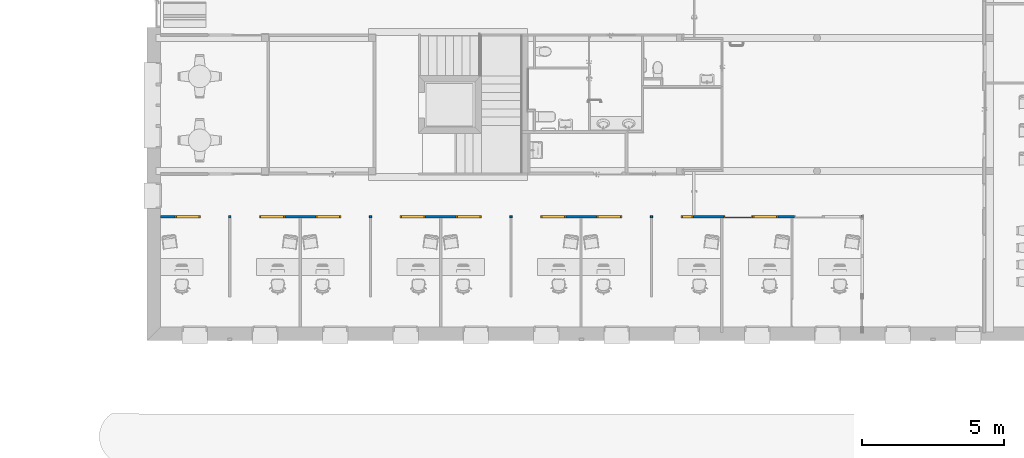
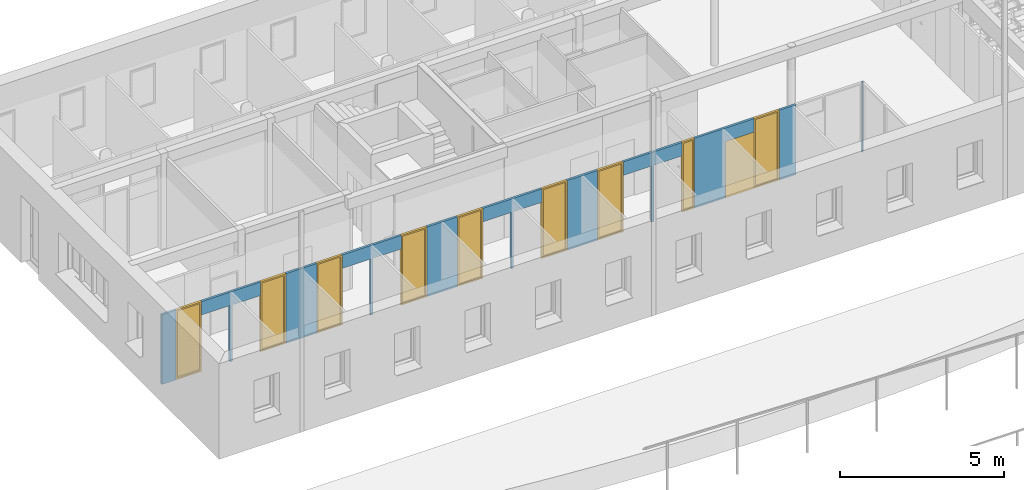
# One storey, part 15 of 91: 9 windows, 1 door, 1 wall, 20 openings.
"""IFC2X3 building model written with IfcOpenShell, lengths in metres."""

import ifcopenshell
import ifcopenshell.guid

model = None  # the IFC model being written
_history = None  # IfcOwnerHistory: only IFC2X3 demands one
_inside = {}  # id of a spatial element -> (the spatial element, [elements in it])
_under = {}  # id of a project, library or spatial element -> (it, [spatial elements below it])
_declared = {}  # id of a project -> (the project, [libraries it declares])
_typed = {}  # id of a type object -> (the type object, [elements of that type])
_made_of = {}  # id of a material, layer set ... -> (it, [elements and type objects made of it])


def new_model(schema):
    """Start an empty IFC model of exactly this schema.

    Asked for "IFC4X3", IfcOpenShell would pick the latest addendum, in which some entities
    have other attributes; the version numbers below select the first issue.
    IFC2X3 requires an IfcOwnerHistory on every rooted entity: one is made here for all.
    """
    global model, _history
    if schema == "IFC4X3":
        model = ifcopenshell.file(schema_version=(4, 3, 0, 0))
    else:
        model = ifcopenshell.file(schema=schema)
    _inside.clear()
    _under.clear()
    _declared.clear()
    _typed.clear()
    _made_of.clear()
    _history = None
    if model.schema == "IFC2X3":
        org = make("IfcOrganization", Name="unknown")
        user = make(
            "IfcPersonAndOrganization",
            ThePerson=make("IfcPerson", FamilyName="unknown"),
            TheOrganization=org,
        )
        app = make(
            "IfcApplication",
            ApplicationDeveloper=org,
            Version="unknown",
            ApplicationFullName="unknown",
            ApplicationIdentifier="unknown",
        )
        _history = make(
            "IfcOwnerHistory",
            OwningUser=user,
            OwningApplication=app,
            ChangeAction="ADDED",
            CreationDate=0,
        )
    return model


def make(cls, **values):
    """One entity of the class cls with the attributes given. An attribute that is None is left unset."""
    return model.create_entity(
        cls, **{name: value for name, value in values.items() if value is not None}
    )


def entity(cls, *values):
    """Any entity or typed value of the class cls, its attributes in the order of the schema. None: left unset."""
    e = model.create_entity(cls)
    for i, value in enumerate(values):
        if value is not None:
            e[i] = value
    return e


def rooted(cls, **values):
    """An entity with a GlobalId (a new one), such as an element, a storey or a relation."""
    return make(cls, GlobalId=ifcopenshell.guid.new(), OwnerHistory=_history, **values)


def si_unit(unit_type, name, prefix=None):
    """IfcSIUnit, for example si_unit("LENGTHUNIT", "METRE", prefix="MILLI")."""
    return make("IfcSIUnit", UnitType=unit_type, Prefix=prefix, Name=name)


def converted_unit(unit_type, name, factor, base, dimensions=None, offset=None):
    """IfcConversionBasedUnit, such as the inch: factor (a typed value) times the base unit."""
    return make(
        "IfcConversionBasedUnit"
        if offset is None
        else "IfcConversionBasedUnitWithOffset",
        ConversionOffset=offset,
        Dimensions=None
        if dimensions is None
        else entity("IfcDimensionalExponents", *dimensions),
        UnitType=unit_type,
        Name=name,
        ConversionFactor=make(
            "IfcMeasureWithUnit", ValueComponent=factor, UnitComponent=base
        ),
    )


def derived_unit(unit_type, elements):
    """IfcDerivedUnit: a product of units, each with its exponent."""
    return make(
        "IfcDerivedUnit",
        Elements=[
            make("IfcDerivedUnitElement", Unit=unit, Exponent=power)
            for unit, power in elements
        ],
        UnitType=unit_type,
    )


def money_unit(currency):
    """IfcMonetaryUnit."""
    return make("IfcMonetaryUnit", Currency=currency)


def assignment(units):
    """IfcUnitAssignment: the units of a project."""
    return None if units is None else make("IfcUnitAssignment", Units=units)


def point(xyz):
    """IfcCartesianPoint."""
    return None if xyz is None else make("IfcCartesianPoint", Coordinates=xyz)


def direction(xyz):
    """IfcDirection."""
    return None if xyz is None else make("IfcDirection", DirectionRatios=xyz)


def frame(location, z_axis=None, x_axis=None):
    """IfcAxis2Placement3D, a coordinate frame: its origin and axes. An axis left out is left unset."""
    return make(
        "IfcAxis2Placement3D",
        Location=point(location),
        Axis=direction(z_axis),
        RefDirection=direction(x_axis),
    )


def frame_2d(location, x_axis=None):
    """IfcAxis2Placement2D, a coordinate frame in the plane: its origin and x axis."""
    return make(
        "IfcAxis2Placement2D", Location=point(location), RefDirection=direction(x_axis)
    )


def origin_with_axes():
    """The frame at (0, 0, 0) with the z axis (0, 0, 1) and the x axis (1, 0, 0) written out."""
    return frame((0.0, 0.0, 0.0), z_axis=(0.0, 0.0, 1.0), x_axis=(1.0, 0.0, 0.0))


def origin_2d_with_axis():
    """The frame at (0, 0) in the plane with the x axis (1, 0) written out."""
    return frame_2d((0.0, 0.0), x_axis=(1.0, 0.0))


def place(relative_to, where):
    """IfcLocalPlacement: puts the frame where relative to a parent placement (None: the world)."""
    return make(
        "IfcLocalPlacement", PlacementRelTo=relative_to, RelativePlacement=where
    )


def context(
    kind, dimensions, precision=None, world=None, true_north=None, identifier=None
):
    """IfcGeometricRepresentationContext, for example the 3D "Model" context."""
    return make(
        "IfcGeometricRepresentationContext",
        ContextIdentifier=identifier,
        ContextType=kind,
        CoordinateSpaceDimension=dimensions,
        Precision=precision,
        WorldCoordinateSystem=world,
        TrueNorth=true_north,
    )


def subcontext(parent, identifier, kind, view, scale=None):
    """IfcGeometricRepresentationSubContext, for example "Body" below "Model"."""
    return make(
        "IfcGeometricRepresentationSubContext",
        ContextIdentifier=identifier,
        ContextType=kind,
        ParentContext=parent,
        TargetScale=scale,
        TargetView=view,
    )


def project(units=None, contexts=None):
    """IfcProject with its units and contexts."""
    return rooted(
        "IfcProject",
        Name="project",
        RepresentationContexts=contexts,
        UnitsInContext=assignment(units),
    )


def spatial(cls, under=None, at=None, **own):
    """A site, building, storey or space (cls), placed at a placement, below another one or the project."""
    s = rooted(cls, ObjectPlacement=at, **own)
    if under is not None:
        _under.setdefault(under.id(), (under, []))[1].append(s)
    return s


def polyline(points):
    """IfcPolyline through the points."""
    return make("IfcPolyline", Points=[point(p) for p in points])


def profile(cls, at=None, kind="AREA", **sizes):
    """A parametric profile (cls). Its sizes go by their IFC names, for example OverallWidth=200.0."""
    return make(cls, ProfileType=kind, Position=at, **sizes)


def rectangle(**sizes):
    """IfcRectangleProfileDef."""
    return profile("IfcRectangleProfileDef", **sizes)


def outline(outer, holes=None, kind="AREA"):
    """IfcArbitraryClosedProfileDef: a profile drawn as a closed curve; with holes, ...WithVoids."""
    if holes is None:
        return make("IfcArbitraryClosedProfileDef", ProfileType=kind, OuterCurve=outer)
    return make(
        "IfcArbitraryProfileDefWithVoids",
        ProfileType=kind,
        OuterCurve=outer,
        InnerCurves=holes,
    )


def extrude(swept, where, along, depth):
    """IfcExtrudedAreaSolid: the profile swept, set in the frame where, extruded along a direction by depth."""
    return make(
        "IfcExtrudedAreaSolid",
        SweptArea=swept,
        Position=where,
        ExtrudedDirection=direction(along),
        Depth=depth,
    )


def faces_of(points, faces, orient=None, outer=None):
    """IfcFace entities. A face is a list of loops; a loop is a list of indices into points, from 0.

    orient and outer hold one flag for each loop. By default every Orientation is true, the
    first loop of a face is its IfcFaceOuterBound and the others are IfcFaceBound.
    """
    made = []
    for i, loops in enumerate(faces):
        bounds = []
        for j, loop in enumerate(loops):
            is_outer = j == 0 if outer is None else outer[i][j]
            bounds.append(
                make(
                    "IfcFaceOuterBound" if is_outer else "IfcFaceBound",
                    Bound=make("IfcPolyLoop", Polygon=[points[k] for k in loop]),
                    Orientation=True if orient is None else orient[i][j],
                )
            )
        made.append(make("IfcFace", Bounds=bounds))
    return made


def open_shell(faces, orient=None, outer=None):
    """The faces of one IfcOpenShell. surface_model builds it on its shared points."""
    return ("IfcOpenShell", faces, orient, outer)


def faceted_brep(points, faces, orient=None, outer=None, voids=None):
    """IfcFacetedBrep: a solid bounded by flat faces; with voids (closed shells), ...WithVoids."""
    shared = [point(p) for p in points]
    hull = make("IfcClosedShell", CfsFaces=faces_of(shared, faces, orient, outer))
    if voids is None:
        return make("IfcFacetedBrep", Outer=hull)
    return make(
        "IfcFacetedBrepWithVoids",
        Outer=hull,
        Voids=[
            make(cls, CfsFaces=faces_of(shared, fs, o, b)) for cls, fs, o, b in voids
        ],
    )


def surface_model(cls, points, shells):
    """IfcFaceBasedSurfaceModel or IfcShellBasedSurfaceModel (cls): surfaces that need not close."""
    shared = [point(p) for p in points]
    made = [make(c, CfsFaces=faces_of(shared, fs, o, b)) for c, fs, o, b in shells]
    if cls == "IfcFaceBasedSurfaceModel":
        return make(cls, FbsmFaces=made)
    return make(cls, SbsmBoundary=made)


def shape(context_of_items, identifier, shape_type, items):
    """IfcShapeRepresentation: the items that make up one representation, for example the "Body"."""
    return make(
        "IfcShapeRepresentation",
        ContextOfItems=context_of_items,
        RepresentationIdentifier=identifier,
        RepresentationType=shape_type,
        Items=items,
    )


def source(mapping_origin, context_of_items, identifier, shape_type, items):
    """IfcRepresentationMap: a shape defined once, which mapped items show again and again."""
    return make(
        "IfcRepresentationMap",
        MappingOrigin=mapping_origin,
        MappedRepresentation=shape(context_of_items, identifier, shape_type, items),
    )


def transform(
    local_origin,
    x_axis=None,
    y_axis=None,
    z_axis=None,
    scale=None,
    scale2=None,
    scale3=None,
    uniform=True,
):
    """IfcCartesianTransformationOperator3D, or its non-uniform kind. x_axis, y_axis, z_axis: its Axis1, 2, 3."""
    if uniform:
        return make(
            "IfcCartesianTransformationOperator3D",
            Axis1=direction(x_axis),
            Axis2=direction(y_axis),
            LocalOrigin=point(local_origin),
            Scale=scale,
            Axis3=direction(z_axis),
        )
    return make(
        "IfcCartesianTransformationOperator3DnonUniform",
        Axis1=direction(x_axis),
        Axis2=direction(y_axis),
        LocalOrigin=point(local_origin),
        Scale=scale,
        Axis3=direction(z_axis),
        Scale2=scale2,
        Scale3=scale3,
    )


def mapped(mapping_source, mapping_target):
    """IfcMappedItem: shows the shape of a source again, moved by a transform."""
    return make(
        "IfcMappedItem", MappingSource=mapping_source, MappingTarget=mapping_target
    )


def material(Name=None, Category=None):
    """IfcMaterial."""
    return make("IfcMaterial", Name=Name, Category=Category)


def layer(
    of_material, thickness, ventilated=None, Name=None, Category=None, Priority=None
):
    """IfcMaterialLayer: one layer of a wall or slab, of a material (None: an air gap)."""
    return make(
        "IfcMaterialLayer",
        Material=of_material,
        LayerThickness=thickness,
        IsVentilated=ventilated,
        Name=Name,
        Category=Category,
        Priority=Priority,
    )


def layer_set(layers, Name=None):
    """IfcMaterialLayerSet."""
    return make("IfcMaterialLayerSet", MaterialLayers=layers, LayerSetName=Name)


def layer_usage(for_layer_set, set_direction, sense, offset, extent=None):
    """IfcMaterialLayerSetUsage: how a layer set lies in its element."""
    return make(
        "IfcMaterialLayerSetUsage",
        ForLayerSet=for_layer_set,
        LayerSetDirection=set_direction,
        DirectionSense=sense,
        OffsetFromReferenceLine=offset,
        ReferenceExtent=extent,
    )


def made_of(thing, what):
    """Note that an element or type object is made of a material, layer set ...; save() writes the relation."""
    if what is not None:
        _made_of.setdefault(what.id(), (what, []))[1].append(thing)
    return thing


def type_object(cls, material=None, **own):
    """A type object (cls), such as IfcWallType, which elements share."""
    return made_of(rooted(cls, **own), material)


def element(
    cls,
    number,
    at=None,
    inside=None,
    cuts=None,
    type_object=None,
    material=None,
    context=None,
    identifier="Body",
    shape_type=None,
    held_by="IfcProductDefinitionShape",
    body=None,
    shapes=None,
    **own,
):
    """One element of the class cls, such as IfcWall. Its Tag is "e" and its number.

    at: its placement. inside: the storey or other place that contains it. cuts: it is an
    opening in that element (IfcRelVoidsElement). A single representation is given by context,
    identifier, shape_type and body (its items); several are given by shapes. held_by: the class
    of the entity that holds the representations. save() writes the other relations.
    """
    e = rooted(cls, Tag="e%d" % number, ObjectPlacement=at, **own)
    if body is not None:
        shapes = [shape(context, identifier, shape_type, body)]
    if shapes is not None:
        e.Representation = make(held_by, Representations=shapes)
    if inside is not None:
        _inside.setdefault(inside.id(), (inside, []))[1].append(e)
    if cuts is not None:
        rooted(
            "IfcRelVoidsElement", RelatingBuildingElement=cuts, RelatedOpeningElement=e
        )
    if type_object is not None:
        _typed.setdefault(type_object.id(), (type_object, []))[1].append(e)
    return made_of(e, material)


def fill(opening, filler):
    """IfcRelFillsElement: the door or window that sits in an opening."""
    return rooted(
        "IfcRelFillsElement",
        RelatingOpeningElement=opening,
        RelatedBuildingElement=filler,
    )


def aggregate(whole, parts):
    """IfcRelAggregates: a whole, such as a stair, and the parts it consists of."""
    return rooted("IfcRelAggregates", RelatingObject=whole, RelatedObjects=parts)


def save(model, path):
    """Write the relations noted so far, then the file.

    IfcRelAggregates (storeys below a building ...), IfcRelContainedInSpatialStructure (elements
    in a storey), IfcRelDefinesByType, IfcRelAssociatesMaterial and IfcRelDeclares: one each for
    every whole, place, type object, material and project.
    """
    for whole, parts in _under.values():
        aggregate(whole, parts)
    for where, things in _inside.values():
        rooted(
            "IfcRelContainedInSpatialStructure",
            RelatedElements=things,
            RelatingStructure=where,
        )
    for kind, things in _typed.values():
        rooted("IfcRelDefinesByType", RelatedObjects=things, RelatingType=kind)
    for what, things in _made_of.values():
        rooted("IfcRelAssociatesMaterial", RelatedObjects=things, RelatingMaterial=what)
    for by, libraries in _declared.values():
        rooted("IfcRelDeclares", RelatingContext=by, RelatedDefinitions=libraries)
    model.write(path)


model = new_model("IFC2X3")

# Units and contexts
model_context = context("Model", 3, precision=1e-05, world=origin_with_axes(), true_north=direction((0.0, 1.0)))
body_context = subcontext(model_context, "Body", "Model", "MODEL_VIEW")
ifc_project = project(units=[si_unit("LENGTHUNIT", "METRE"), si_unit("AREAUNIT", "SQUARE_METRE"), si_unit("VOLUMEUNIT", "CUBIC_METRE"), converted_unit("PLANEANGLEUNIT", "DEGREE", entity("IfcPlaneAngleMeasure", 0.0174532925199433), si_unit("PLANEANGLEUNIT", "RADIAN"), dimensions=[0, 0, 0, 0, 0, 0, 0]), money_unit("EUR"), converted_unit("TIMEUNIT", "Year", entity("IfcTimeMeasure", 31557600.0), si_unit("TIMEUNIT", "SECOND"), dimensions=[0, 0, 1, 0, 0, 0, 0]), si_unit("MASSUNIT", "GRAM", prefix="KILO"), si_unit("THERMODYNAMICTEMPERATUREUNIT", "DEGREE_CELSIUS"), si_unit("LUMINOUSINTENSITYUNIT", "LUMEN"), si_unit("ENERGYUNIT", "JOULE", prefix="MEGA"), derived_unit("THERMALCONDUCTANCEUNIT", [(si_unit("POWERUNIT", "WATT"), 1), (si_unit("LENGTHUNIT", "METRE"), -1), (si_unit("THERMODYNAMICTEMPERATUREUNIT", "KELVIN"), -1)]), derived_unit("SPECIFICHEATCAPACITYUNIT", [(si_unit("ENERGYUNIT", "JOULE"), 1), (si_unit("MASSUNIT", "GRAM", prefix="KILO"), -1), (si_unit("THERMODYNAMICTEMPERATUREUNIT", "KELVIN"), -1)]), derived_unit("MASSDENSITYUNIT", [(si_unit("MASSUNIT", "GRAM", prefix="KILO"), 1), (si_unit("VOLUMEUNIT", "CUBIC_METRE"), -1)])], contexts=[model_context])

# Site, building, storey
site_placement = place(None, origin_with_axes())
site = spatial("IfcSite", under=ifc_project, at=site_placement, Name="Site", CompositionType="ELEMENT")
building_placement = place(site_placement, origin_with_axes())
building = spatial("IfcBuilding", under=site, at=building_placement, Name="Bâtiment", CompositionType="ELEMENT")
storey_placement = place(building_placement, origin_with_axes())
storey = spatial("IfcBuildingStorey", under=building, at=storey_placement, Name="RDC", CompositionType="ELEMENT", Elevation=0.0)

# Wall, openings, windows, door
ifc_material = material(Name="*PLAQUE DE PLATRE - CLOISON")
ifc_layer = layer(ifc_material, 0.08, ventilated="UNKNOWN")
ifc_layer_set = layer_set([ifc_layer], Name="*PLAQUE DE PLATRE - CLOISON 0.08")
ifc_layer_usage = layer_usage(ifc_layer_set, "AXIS2", "NEGATIVE", 0.0)
wall_type = type_object("IfcWallType", Name="*PLAQUE DE PLATRE - CLOISON 80", PredefinedType="NOTDEFINED")
wall_placement = place(storey_placement, frame((49.88999999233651, -23.11056215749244, 0.0), z_axis=(0.0, 0.0, 1.0), x_axis=(-1.0, 0.0, 0.0)))
wall = element("IfcWallStandardCase", 1, at=wall_placement, inside=storey, type_object=wall_type, material=ifc_layer_usage, Name="Cloison modulaire", context=body_context, shape_type="SweptSolid", body=[
    extrude(outline(polyline([(0.0, -0.0799999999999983), (24.78999999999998, -0.0799999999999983), (24.78999999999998, 0.0), (0.0799999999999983, 0.0), (0.0, -0.0799999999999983)])), origin_with_axes(), (0.0, 0.0, 1.0), 2.6),
])
opening_1_placement = place(wall_placement, frame((0.7535000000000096, 0.0, 0.0), z_axis=(0.0, 0.0, 1.0), x_axis=(1.0, 0.0, 0.0)))
element("IfcOpeningElement", 2, at=opening_1_placement, cuts=wall, Name="CH.3+vitrophanie", context=body_context, shape_type="SweptSolid", body=[
    extrude(rectangle(XDim=1.347000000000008, YDim=2.6, at=origin_2d_with_axis()), frame((0.0, 0.08000000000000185, 1.3), z_axis=(0.0, -1.0, 0.0), x_axis=(-1.0, 0.0, 0.0)), (0.0, 0.0, 1.0), 0.24),
])
opening_2_placement = place(wall_placement, frame((3.459999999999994, 0.0, 0.0), z_axis=(0.0, 0.0, 1.0), x_axis=(1.0, 0.0, 0.0)))
opening_2 = element("IfcOpeningElement", 3, at=opening_2_placement, cuts=wall, Name="CH.1+vitrophanie", context=body_context, shape_type="SweptSolid", body=[
    extrude(rectangle(XDim=0.9000000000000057, YDim=2.6, at=origin_2d_with_axis()), frame((0.0, 0.08000000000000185, 1.3), z_axis=(0.0, -1.0, 0.0), x_axis=(-1.0, 0.0, 0.0)), (0.0, 0.0, 1.0), 0.24),
])
opening_3_placement = place(wall_placement, frame((8.966999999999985, 0.0, 0.0), z_axis=(0.0, 0.0, 1.0), x_axis=(1.0, 0.0, 0.0)))
opening_3 = element("IfcOpeningElement", 4, at=opening_3_placement, cuts=wall, Name="CH.1+vitrophanie", context=body_context, shape_type="SweptSolid", body=[
    extrude(rectangle(XDim=0.9000000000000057, YDim=2.6, at=origin_2d_with_axis()), frame((0.0, 0.08000000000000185, 1.3), z_axis=(0.0, -1.0, 0.0), x_axis=(-1.0, 0.0, 0.0)), (0.0, 0.0, 1.0), 0.24),
])
opening_4_placement = place(wall_placement, frame((6.216999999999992, 0.0, 0.0), z_axis=(0.0, 0.0, 1.0), x_axis=(1.0, 0.0, 0.0)))
opening_4 = element("IfcOpeningElement", 5, at=opening_4_placement, cuts=wall, Name="CH.2+vitrophanie", context=body_context, shape_type="SweptSolid", body=[
    extrude(rectangle(XDim=0.4400000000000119, YDim=2.6, at=origin_2d_with_axis()), frame((0.0, 0.08000000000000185, 1.3), z_axis=(0.0, -1.0, 0.0), x_axis=(-1.0, 0.0, 0.0)), (0.0, 0.0, 1.0), 0.24),
])
opening_5_placement = place(wall_placement, frame((10.93699999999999, 0.0, 0.0), z_axis=(0.0, 0.0, 1.0), x_axis=(1.0, 0.0, 0.0)))
opening_5 = element("IfcOpeningElement", 6, at=opening_5_placement, cuts=wall, Name="CH.1+vitrophanie", context=body_context, shape_type="SweptSolid", body=[
    extrude(rectangle(XDim=0.9000000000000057, YDim=2.6, at=origin_2d_with_axis()), frame((0.0, 0.08000000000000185, 1.3), z_axis=(0.0, -1.0, 0.0), x_axis=(-1.0, 0.0, 0.0)), (0.0, 0.0, 1.0), 0.24),
])
opening_6_placement = place(wall_placement, frame((15.89699999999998, 0.0, 0.0), z_axis=(0.0, 0.0, 1.0), x_axis=(1.0, 0.0, 0.0)))
opening_6 = element("IfcOpeningElement", 7, at=opening_6_placement, cuts=wall, Name="CH.1+vitrophanie", context=body_context, shape_type="SweptSolid", body=[
    extrude(rectangle(XDim=0.9000000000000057, YDim=2.6, at=origin_2d_with_axis()), frame((0.0, 0.08000000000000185, 1.3), z_axis=(0.0, -1.0, 0.0), x_axis=(-1.0, 0.0, 0.0)), (0.0, 0.0, 1.0), 0.24),
])
opening_7_placement = place(wall_placement, frame((20.85699999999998, 0.0, 0.0), z_axis=(0.0, 0.0, 1.0), x_axis=(1.0, 0.0, 0.0)))
opening_7 = element("IfcOpeningElement", 8, at=opening_7_placement, cuts=wall, Name="CH.1+vitrophanie", context=body_context, shape_type="SweptSolid", body=[
    extrude(rectangle(XDim=0.8999999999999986, YDim=2.6, at=origin_2d_with_axis()), frame((0.0, 0.08000000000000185, 1.3), z_axis=(0.0, -1.0, 0.0), x_axis=(-1.0, 0.0, 0.0)), (0.0, 0.0, 1.0), 0.24),
])
opening_8_placement = place(wall_placement, frame((18.87699999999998, 0.0, 0.0), z_axis=(0.0, 0.0, 1.0), x_axis=(1.0, 0.0, 0.0)))
opening_8 = element("IfcOpeningElement", 9, at=opening_8_placement, cuts=wall, Name="CH.1+vitrophanie", context=body_context, shape_type="SweptSolid", body=[
    extrude(rectangle(XDim=0.8999999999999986, YDim=2.6, at=origin_2d_with_axis()), frame((0.0, 0.08000000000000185, 1.3), z_axis=(0.0, -1.0, 0.0), x_axis=(-1.0, 0.0, 0.0)), (0.0, 0.0, 1.0), 0.24),
])
opening_9_placement = place(wall_placement, frame((23.83699999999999, 0.0, 0.0), z_axis=(0.0, 0.0, 1.0), x_axis=(1.0, 0.0, 0.0)))
opening_9 = element("IfcOpeningElement", 10, at=opening_9_placement, cuts=wall, Name="CH.1+vitrophanie", context=body_context, shape_type="SweptSolid", body=[
    extrude(rectangle(XDim=0.8999999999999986, YDim=2.6, at=origin_2d_with_axis()), frame((0.0, 0.08000000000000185, 1.3), z_axis=(0.0, -1.0, 0.0), x_axis=(-1.0, 0.0, 0.0)), (0.0, 0.0, 1.0), 0.24),
])
opening_10_placement = place(wall_placement, frame((1.927000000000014, 0.0, 0.0), z_axis=(0.0, 0.0, 1.0), x_axis=(1.0, 0.0, 0.0)))
element("IfcOpeningElement", 11, at=opening_10_placement, cuts=wall, Name="Pi.01", context=body_context, shape_type="SweptSolid", body=[
    extrude(rectangle(XDim=1.0, YDim=2.6, at=origin_2d_with_axis()), frame((0.0, 0.08000000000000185, 1.3), z_axis=(0.0, -1.0, 0.0), x_axis=(1.0, 0.0, 0.0)), (0.0, 0.0, 1.0), 0.24),
])
opening_11_placement = place(wall_placement, frame((13.91699999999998, 0.0, 0.0), z_axis=(0.0, 0.0, 1.0), x_axis=(1.0, 0.0, 0.0)))
opening_11 = element("IfcOpeningElement", 12, at=opening_11_placement, cuts=wall, Name="CH.1+vitrophanie", context=body_context, shape_type="SweptSolid", body=[
    extrude(rectangle(XDim=0.9000000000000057, YDim=2.6, at=origin_2d_with_axis()), frame((0.0, 0.08000000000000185, 1.3), z_axis=(0.0, -1.0, 0.0), x_axis=(-1.0, 0.0, 0.0)), (0.0, 0.0, 1.0), 0.24),
])
opening_12_placement = place(wall_placement, frame((4.409999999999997, 0.0, 0.0), z_axis=(0.0, 0.0, 1.0), x_axis=(1.0, 0.0, 0.0)))
opening_12 = element("IfcOpeningElement", 13, at=opening_12_placement, cuts=wall, Name="Pi.01", context=body_context, shape_type="SweptSolid", body=[
    extrude(rectangle(XDim=1.0, YDim=2.1, at=origin_2d_with_axis()), frame((0.0, 0.08000000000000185, 1.05), z_axis=(0.0, -1.0, 0.0), x_axis=(1.0, 0.0, 0.0)), (0.0, 0.0, 1.0), 0.24),
])
opening_13_placement = place(wall_placement, frame((17.92699999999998, 0.0, 0.0), z_axis=(0.0, 0.0, 1.0), x_axis=(1.0, 0.0, 0.0)))
element("IfcOpeningElement", 14, at=opening_13_placement, cuts=wall, Name="libre", context=body_context, shape_type="SweptSolid", body=[
    extrude(rectangle(XDim=0.9999999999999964, YDim=2.1, at=origin_2d_with_axis()), frame((0.0, -0.0800000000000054, 1.05), z_axis=(0.0, 1.0, 0.0), x_axis=(1.0, 0.0, 0.0)), (0.0, 0.0, -1.0), 0.08),
    extrude(rectangle(XDim=0.9999999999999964, YDim=2.1, at=origin_2d_with_axis()), frame((0.0, -0.0800000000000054, 1.05), z_axis=(0.0, -1.0, 0.0), x_axis=(1.0, 0.0, 0.0)), (0.0, 0.0, -1.0), 0.08),
])
opening_14_placement = place(wall_placement, frame((11.88699999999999, 0.0, 0.0), z_axis=(0.0, 0.0, 1.0), x_axis=(1.0, 0.0, 0.0)))
element("IfcOpeningElement", 15, at=opening_14_placement, cuts=wall, Name="libre", context=body_context, shape_type="SweptSolid", body=[
    extrude(rectangle(XDim=1.0, YDim=2.1, at=origin_2d_with_axis()), frame((0.0, -0.0799999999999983, 1.05), z_axis=(0.0, 1.0, 0.0), x_axis=(1.0, 0.0, 0.0)), (0.0, 0.0, -1.0), 0.08),
    extrude(rectangle(XDim=1.0, YDim=2.1, at=origin_2d_with_axis()), frame((0.0, -0.0799999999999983, 1.05), z_axis=(0.0, -1.0, 0.0), x_axis=(1.0, 0.0, 0.0)), (0.0, 0.0, -1.0), 0.08),
])
opening_15_placement = place(wall_placement, frame((12.96699999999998, 0.0, 0.0), z_axis=(0.0, 0.0, 1.0), x_axis=(1.0, 0.0, 0.0)))
element("IfcOpeningElement", 16, at=opening_15_placement, cuts=wall, Name="libre", context=body_context, shape_type="SweptSolid", body=[
    extrude(rectangle(XDim=1.0, YDim=2.1, at=origin_2d_with_axis()), frame((0.0, -0.08000000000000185, 1.05), z_axis=(0.0, 1.0, 0.0), x_axis=(1.0, 0.0, 0.0)), (0.0, 0.0, -1.0), 0.08),
    extrude(rectangle(XDim=1.0, YDim=2.1, at=origin_2d_with_axis()), frame((0.0, -0.08000000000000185, 1.05), z_axis=(0.0, -1.0, 0.0), x_axis=(1.0, 0.0, 0.0)), (0.0, 0.0, -1.0), 0.08),
])
opening_16_placement = place(wall_placement, frame((6.936999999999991, 0.0, 0.0), z_axis=(0.0, 0.0, 1.0), x_axis=(1.0, 0.0, 0.0)))
element("IfcOpeningElement", 17, at=opening_16_placement, cuts=wall, Name="libre", context=body_context, shape_type="SweptSolid", body=[
    extrude(rectangle(XDim=1.0, YDim=2.1, at=origin_2d_with_axis()), frame((0.0, -0.0799999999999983, 1.05), z_axis=(0.0, 1.0, 0.0), x_axis=(1.0, 0.0, 0.0)), (0.0, 0.0, -1.0), 0.08),
    extrude(rectangle(XDim=1.0, YDim=2.1, at=origin_2d_with_axis()), frame((0.0, -0.0799999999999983, 1.05), z_axis=(0.0, -1.0, 0.0), x_axis=(1.0, 0.0, 0.0)), (0.0, 0.0, -1.0), 0.08),
])
opening_17_placement = place(wall_placement, frame((8.016999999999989, 0.0, 0.0), z_axis=(0.0, 0.0, 1.0), x_axis=(1.0, 0.0, 0.0)))
element("IfcOpeningElement", 18, at=opening_17_placement, cuts=wall, Name="libre", context=body_context, shape_type="SweptSolid", body=[
    extrude(rectangle(XDim=1.0, YDim=2.1, at=origin_2d_with_axis()), frame((0.0, -0.0799999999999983, 1.05), z_axis=(0.0, 1.0, 0.0), x_axis=(1.0, 0.0, 0.0)), (0.0, 0.0, -1.0), 0.08),
    extrude(rectangle(XDim=1.0, YDim=2.1, at=origin_2d_with_axis()), frame((0.0, -0.0799999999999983, 1.05), z_axis=(0.0, -1.0, 0.0), x_axis=(1.0, 0.0, 0.0)), (0.0, 0.0, -1.0), 0.08),
])
opening_18_placement = place(wall_placement, frame((16.84699999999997, 0.0, 0.0), z_axis=(0.0, 0.0, 1.0), x_axis=(1.0, 0.0, 0.0)))
element("IfcOpeningElement", 19, at=opening_18_placement, cuts=wall, Name="libre", context=body_context, shape_type="SweptSolid", body=[
    extrude(rectangle(XDim=1.0, YDim=2.1, at=origin_2d_with_axis()), frame((0.0, -0.0800000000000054, 1.05), z_axis=(0.0, 1.0, 0.0), x_axis=(1.0, 0.0, 0.0)), (0.0, 0.0, -1.0), 0.08),
    extrude(rectangle(XDim=1.0, YDim=2.1, at=origin_2d_with_axis()), frame((0.0, -0.0800000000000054, 1.05), z_axis=(0.0, -1.0, 0.0), x_axis=(1.0, 0.0, 0.0)), (0.0, 0.0, -1.0), 0.08),
])
opening_19_placement = place(wall_placement, frame((22.88699999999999, 0.0, 0.0), z_axis=(0.0, 0.0, 1.0), x_axis=(1.0, 0.0, 0.0)))
element("IfcOpeningElement", 20, at=opening_19_placement, cuts=wall, Name="libre", context=body_context, shape_type="SweptSolid", body=[
    extrude(rectangle(XDim=1.0, YDim=2.1, at=origin_2d_with_axis()), frame((0.0, -0.0800000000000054, 1.05), z_axis=(0.0, 1.0, 0.0), x_axis=(1.0, 0.0, 0.0)), (0.0, 0.0, -1.0), 0.08),
    extrude(rectangle(XDim=1.0, YDim=2.1, at=origin_2d_with_axis()), frame((0.0, -0.0800000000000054, 1.05), z_axis=(0.0, -1.0, 0.0), x_axis=(1.0, 0.0, 0.0)), (0.0, 0.0, -1.0), 0.08),
])
opening_20_placement = place(wall_placement, frame((21.80699999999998, 0.0, 0.0), z_axis=(0.0, 0.0, 1.0), x_axis=(1.0, 0.0, 0.0)))
element("IfcOpeningElement", 21, at=opening_20_placement, cuts=wall, Name="libre", context=body_context, shape_type="SweptSolid", body=[
    extrude(rectangle(XDim=1.0, YDim=2.1, at=origin_2d_with_axis()), frame((0.0, -0.0800000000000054, 1.05), z_axis=(0.0, 1.0, 0.0), x_axis=(1.0, 0.0, 0.0)), (0.0, 0.0, -1.0), 0.08),
    extrude(rectangle(XDim=1.0, YDim=2.1, at=origin_2d_with_axis()), frame((0.0, -0.0800000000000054, 1.05), z_axis=(0.0, -1.0, 0.0), x_axis=(1.0, 0.0, 0.0)), (0.0, 0.0, -1.0), 0.08),
])
window_style = type_object("IfcWindowStyle", Name="Fenêtre 27", ConstructionType="NOTDEFINED", OperationType="SINGLE_PANEL", ParameterTakesPrecedence=False, Sizeable=False)
shared_shape_1 = source(origin_with_axes(), body_context, "Body", "SurfaceModel", [
    faceted_brep([(-0.4, -0.08000000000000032, 2.55), (-0.4, 0.0, 2.55), (-0.45, 0.0, 2.6), (-0.45, -0.08000000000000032, 2.6), (-0.4, -0.08, 0.05), (-0.4, 0.0, 0.05), (-0.45, 0.0, 0.0), (-0.45, -0.08, 0.0)], [[[0, 1, 2, 3]], [[4, 5, 1, 0]], [[1, 5, 6, 2]], [[3, 2, 6, 7]], [[0, 3, 7, 4]], [[7, 6, 5, 4]]]),
    faceted_brep([(0.4, -0.08, 0.05), (0.4, 0.0, 0.05), (0.45, 0.0, 0.0), (0.45, -0.08, 0.0), (0.4, -0.08000000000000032, 2.55), (0.4, 0.0, 2.55), (0.45, 0.0, 2.6), (0.45, -0.08000000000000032, 2.6)], [[[0, 1, 2, 3]], [[4, 5, 1, 0]], [[1, 5, 6, 2]], [[3, 2, 6, 7]], [[0, 3, 7, 4]], [[7, 6, 5, 4]]]),
    faceted_brep([(-0.4, -0.08, 0.05), (-0.4, 0.0, 0.05), (-0.45, 0.0, 0.0), (-0.45, -0.08, 0.0), (0.4, -0.08, 0.05), (0.4, 0.0, 0.05), (0.45, 0.0, 0.0), (0.45, -0.08, 0.0)], [[[0, 1, 2, 3]], [[4, 5, 1, 0]], [[1, 5, 6, 2]], [[3, 2, 6, 7]], [[0, 3, 7, 4]], [[7, 6, 5, 4]]]),
    faceted_brep([(0.4, -0.08000000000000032, 2.55), (0.4, 0.0, 2.55), (0.45, 0.0, 2.6), (0.45, -0.08000000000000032, 2.6), (-0.4, -0.08000000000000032, 2.55), (-0.4, 0.0, 2.55), (-0.45, 0.0, 2.6), (-0.45, -0.08000000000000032, 2.6)], [[[0, 1, 2, 3]], [[4, 5, 1, 0]], [[1, 5, 6, 2]], [[3, 2, 6, 7]], [[0, 3, 7, 4]], [[7, 6, 5, 4]]]),
    surface_model("IfcShellBasedSurfaceModel", [(-0.4, -0.02, 0.05000000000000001), (0.4, -0.02, 0.05000000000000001), (0.4, -0.02000000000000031, 2.55), (-0.4, -0.02000000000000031, 2.55)], [open_shell([[[0, 1, 2, 3]]])]),
    surface_model("IfcShellBasedSurfaceModel", [(-0.4, 0.0, 0.05000000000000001), (-0.4, 0.0, 2.55), (0.4, 0.0, 2.55), (0.4, 0.0, 0.05000000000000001)], [open_shell([[[0, 1, 2, 3]]])]),
])
window_1_placement = place(opening_2_placement, frame((0.4500000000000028, 0.0, 0.0), z_axis=(0.0, 0.0, 1.0), x_axis=(-1.0, 0.0, 0.0)))
window_1 = element("IfcWindow", 22, at=window_1_placement, inside=storey, type_object=window_style, Name="CH.1+vitrophanie", OverallHeight=2.6, OverallWidth=0.9, context=body_context, shape_type="MappedRepresentation", body=[
    mapped(shared_shape_1, transform((0.4500000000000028, 0.0799999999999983, 0.0))),
])
fill(opening_2, window_1)
window_2_placement = place(opening_3_placement, frame((0.4500000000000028, 0.0, 0.0), z_axis=(0.0, 0.0, 1.0), x_axis=(-1.0, 0.0, 0.0)))
window_2 = element("IfcWindow", 23, at=window_2_placement, inside=storey, type_object=window_style, Name="CH.1+vitrophanie", OverallHeight=2.6, OverallWidth=0.9, context=body_context, shape_type="MappedRepresentation", body=[
    mapped(shared_shape_1, transform((0.4500000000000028, 0.0799999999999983, 0.0))),
])
fill(opening_3, window_2)
window_3_placement = place(opening_5_placement, frame((0.4500000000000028, 0.0, 0.0), z_axis=(0.0, 0.0, 1.0), x_axis=(-1.0, 0.0, 0.0)))
window_3 = element("IfcWindow", 24, at=window_3_placement, inside=storey, type_object=window_style, Name="CH.1+vitrophanie", OverallHeight=2.6, OverallWidth=0.9, context=body_context, shape_type="MappedRepresentation", body=[
    mapped(shared_shape_1, transform((0.4500000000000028, 0.0799999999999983, 0.0))),
])
fill(opening_5, window_3)
window_4_placement = place(opening_7_placement, frame((0.4499999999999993, 0.0, 0.0), z_axis=(0.0, 0.0, 1.0), x_axis=(-1.0, 0.0, 0.0)))
window_4 = element("IfcWindow", 25, at=window_4_placement, inside=storey, type_object=window_style, Name="CH.1+vitrophanie", OverallHeight=2.6, OverallWidth=0.9, context=body_context, shape_type="MappedRepresentation", body=[
    mapped(shared_shape_1, transform((0.4499999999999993, 0.0800000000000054, 0.0))),
])
fill(opening_7, window_4)
window_5_placement = place(opening_6_placement, frame((0.4500000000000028, 0.0, 0.0), z_axis=(0.0, 0.0, 1.0), x_axis=(-1.0, 0.0, 0.0)))
window_5 = element("IfcWindow", 26, at=window_5_placement, inside=storey, type_object=window_style, Name="CH.1+vitrophanie", OverallHeight=2.6, OverallWidth=0.9, context=body_context, shape_type="MappedRepresentation", body=[
    mapped(shared_shape_1, transform((0.4500000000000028, 0.0800000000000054, 0.0))),
])
fill(opening_6, window_5)
window_6_placement = place(opening_8_placement, frame((0.4499999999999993, 0.0, 0.0), z_axis=(0.0, 0.0, 1.0), x_axis=(-1.0, 0.0, 0.0)))
window_6 = element("IfcWindow", 27, at=window_6_placement, inside=storey, type_object=window_style, Name="CH.1+vitrophanie", OverallHeight=2.6, OverallWidth=0.9, context=body_context, shape_type="MappedRepresentation", body=[
    mapped(shared_shape_1, transform((0.4499999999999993, 0.0800000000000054, 0.0))),
])
fill(opening_8, window_6)
window_7_placement = place(opening_11_placement, frame((0.4500000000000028, 0.0, 0.0), z_axis=(0.0, 0.0, 1.0), x_axis=(-1.0, 0.0, 0.0)))
window_7 = element("IfcWindow", 28, at=window_7_placement, inside=storey, type_object=window_style, Name="CH.1+vitrophanie", OverallHeight=2.6, OverallWidth=0.9, context=body_context, shape_type="MappedRepresentation", body=[
    mapped(shared_shape_1, transform((0.4500000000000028, 0.08000000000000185, 0.0))),
])
fill(opening_11, window_7)
window_8_placement = place(opening_9_placement, frame((0.4499999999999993, 0.0, 0.0), z_axis=(0.0, 0.0, 1.0), x_axis=(-1.0, 0.0, 0.0)))
window_8 = element("IfcWindow", 29, at=window_8_placement, inside=storey, type_object=window_style, Name="CH.1+vitrophanie", OverallHeight=2.6, OverallWidth=0.9, context=body_context, shape_type="MappedRepresentation", body=[
    mapped(shared_shape_1, transform((0.4499999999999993, 0.0800000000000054, 0.0))),
])
fill(opening_9, window_8)
shared_shape_2 = source(origin_with_axes(), body_context, "Body", "SurfaceModel", [
    faceted_brep([(-0.1700000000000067, -0.08000000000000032, 2.55), (-0.1700000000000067, 0.0, 2.55), (-0.2200000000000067, 0.0, 2.6), (-0.2200000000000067, -0.08000000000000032, 2.6), (-0.1700000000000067, -0.08, 0.05), (-0.1700000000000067, 0.0, 0.05), (-0.2200000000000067, 0.0, 0.0), (-0.2200000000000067, -0.08, 0.0)], [[[0, 1, 2, 3]], [[4, 5, 1, 0]], [[1, 5, 6, 2]], [[3, 2, 6, 7]], [[0, 3, 7, 4]], [[7, 6, 5, 4]]]),
    faceted_brep([(0.1700000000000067, -0.08, 0.05), (0.1700000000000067, 0.0, 0.05), (0.2200000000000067, 0.0, 0.0), (0.2200000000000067, -0.08, 0.0), (0.1700000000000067, -0.08000000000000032, 2.55), (0.1700000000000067, 0.0, 2.55), (0.2200000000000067, 0.0, 2.6), (0.2200000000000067, -0.08000000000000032, 2.6)], [[[0, 1, 2, 3]], [[4, 5, 1, 0]], [[1, 5, 6, 2]], [[3, 2, 6, 7]], [[0, 3, 7, 4]], [[7, 6, 5, 4]]]),
    faceted_brep([(-0.1700000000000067, -0.08, 0.05), (-0.1700000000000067, 0.0, 0.05), (-0.2200000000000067, 0.0, 0.0), (-0.2200000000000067, -0.08, 0.0), (0.1700000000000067, -0.08, 0.05), (0.1700000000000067, 0.0, 0.05), (0.2200000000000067, 0.0, 0.0), (0.2200000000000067, -0.08, 0.0)], [[[0, 1, 2, 3]], [[4, 5, 1, 0]], [[1, 5, 6, 2]], [[3, 2, 6, 7]], [[0, 3, 7, 4]], [[7, 6, 5, 4]]]),
    faceted_brep([(0.1700000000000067, -0.08000000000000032, 2.55), (0.1700000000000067, 0.0, 2.55), (0.2200000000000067, 0.0, 2.6), (0.2200000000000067, -0.08000000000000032, 2.6), (-0.1700000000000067, -0.08000000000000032, 2.55), (-0.1700000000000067, 0.0, 2.55), (-0.2200000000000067, 0.0, 2.6), (-0.2200000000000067, -0.08000000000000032, 2.6)], [[[0, 1, 2, 3]], [[4, 5, 1, 0]], [[1, 5, 6, 2]], [[3, 2, 6, 7]], [[0, 3, 7, 4]], [[7, 6, 5, 4]]]),
    surface_model("IfcShellBasedSurfaceModel", [(-0.1700000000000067, -0.02, 0.05000000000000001), (0.1700000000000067, -0.02, 0.05000000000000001), (0.1700000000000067, -0.02000000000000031, 2.55), (-0.1700000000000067, -0.02000000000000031, 2.55)], [open_shell([[[0, 1, 2, 3]]])]),
    surface_model("IfcShellBasedSurfaceModel", [(-0.1700000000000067, 0.0, 0.05000000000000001), (-0.1700000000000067, 0.0, 2.55), (0.1700000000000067, 0.0, 2.55), (0.1700000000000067, 0.0, 0.05000000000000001)], [open_shell([[[0, 1, 2, 3]]])]),
])
window_9_placement = place(opening_4_placement, frame((0.220000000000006, 0.0, 0.0), z_axis=(0.0, 0.0, 1.0), x_axis=(-1.0, 0.0, 0.0)))
window_9 = element("IfcWindow", 30, at=window_9_placement, inside=storey, type_object=window_style, Name="CH.2+vitrophanie", OverallHeight=2.6, OverallWidth=0.44, context=body_context, shape_type="MappedRepresentation", body=[
    mapped(shared_shape_2, transform((0.220000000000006, 0.0799999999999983, 0.0))),
])
fill(opening_4, window_9)
door_style = type_object("IfcDoorStyle", Name="Porte 27", ConstructionType="NOTDEFINED", OperationType="SINGLE_SWING_RIGHT", ParameterTakesPrecedence=False, Sizeable=False)
shared_shape_3 = source(origin_with_axes(), body_context, "Body", "Brep", [
    faceted_brep([(-0.465, -0.04, 0.0), (-0.465, -0.04, 2.04), (-0.465, -0.08, 2.04), (-0.465, -0.08, 0.0), (-0.495, -0.04, 2.04), (-0.495, -0.04, 0.0), (-0.495, 0.0, 2.04), (-0.5, 0.0, 2.04), (-0.5, -0.08, 2.04), (-0.5, -0.08, 0.0), (-0.5, 0.0, 0.0), (-0.495, 0.0, 0.0)], [[[0, 1, 2, 3]], [[4, 1, 0, 5]], [[4, 6, 7, 8, 2, 1]], [[3, 2, 8, 9]], [[5, 0, 3, 9, 10, 11]], [[6, 4, 5, 11]], [[6, 11, 10, 7]], [[10, 9, 8, 7]]]),
    faceted_brep([(0.495, -0.04, 2.04), (0.465, -0.04, 2.04), (0.465, -0.08, 2.04), (0.5, -0.08, 2.04), (0.5, 0.0, 2.04), (0.495, 0.0, 2.04), (0.495, -0.04, 0.0), (0.465, -0.04, 0.0), (0.465, -0.08, 0.0), (0.5, -0.08, 0.0), (0.5, 0.0, 0.0), (0.495, 0.0, 0.0)], [[[0, 1, 2, 3, 4, 5]], [[1, 0, 6, 7]], [[1, 7, 8, 2]], [[3, 2, 8, 9]], [[4, 3, 9, 10]], [[11, 5, 4, 10]], [[0, 5, 11, 6]], [[6, 11, 10, 9, 8, 7]]]),
    faceted_brep([(-0.495, 0.0, 2.07), (-0.495, 0.0, 2.04), (-0.5, 0.0, 2.04), (-0.5, 0.0, 2.1), (0.5, 0.0, 2.1), (0.5, 0.0, 2.04), (0.495, 0.0, 2.04), (0.495, 0.0, 2.07), (-0.495, -0.04, 2.07), (-0.495, -0.04, 2.04), (-0.465, -0.04, 2.04), (-0.465, -0.08, 2.04), (-0.5, -0.08, 2.04), (-0.5, -0.08, 2.1), (0.5, -0.08, 2.1), (0.5, -0.08, 2.04), (0.495, -0.04, 2.04), (0.465, -0.08, 2.04), (0.465, -0.04, 2.04), (0.495, -0.04, 2.07)], [[[0, 1, 2, 3, 4, 5, 6, 7]], [[1, 0, 8, 9]], [[9, 10, 11, 12, 2, 1]], [[2, 12, 13, 3]], [[3, 13, 14, 4]], [[4, 14, 15, 5]], [[16, 6, 5, 15, 17, 18]], [[7, 6, 16, 19]], [[0, 7, 19, 8]], [[16, 18, 10, 9, 8, 19]], [[10, 18, 17, 11]], [[17, 15, 14, 13, 12, 11]]]),
    faceted_brep([(0.495, 0.0, 0.0), (0.495, -0.04, 0.0), (-0.495, -0.04, 0.0), (-0.495, 0.0, 0.0), (0.495, 0.0, 2.07), (0.495, -0.04000000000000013, 2.07), (-0.495, -0.04000000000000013, 2.07), (-0.495, 0.0, 2.07)], [[[0, 1, 2, 3]], [[4, 5, 1, 0]], [[1, 5, 6, 2]], [[3, 2, 6, 7]], [[0, 3, 7, 4]], [[7, 6, 5, 4]]]),
])
door_placement = place(opening_12_placement, frame((-0.5, 0.0, 0.0), z_axis=(0.0, 0.0, 1.0), x_axis=(1.0, 0.0, 0.0)))
door = element("IfcDoor", 31, at=door_placement, inside=storey, type_object=door_style, Name="Pi.01", OverallHeight=2.1, OverallWidth=1.0, context=body_context, shape_type="MappedRepresentation", body=[
    mapped(shared_shape_3, transform((0.5, 0.0, 0.0))),
])
fill(opening_12, door)

save(model, "model.ifc")
